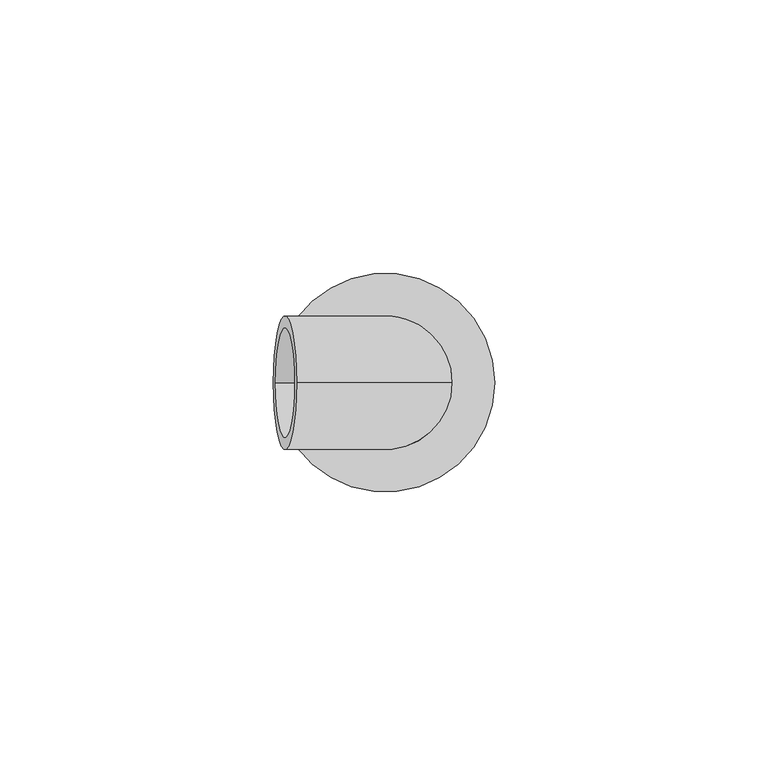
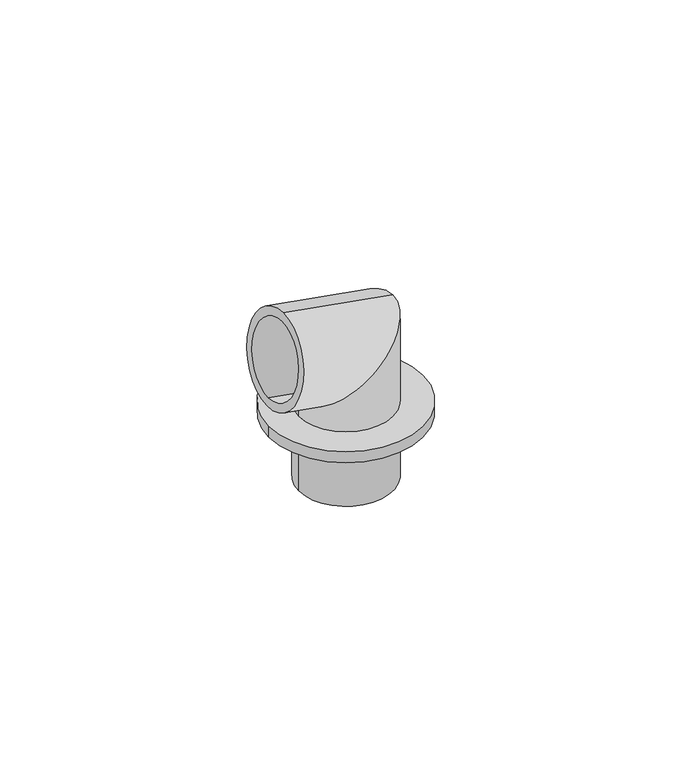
"""IFC4 building model written with IfcOpenShell, lengths in millimetres: pipe fitting geometry."""

from ifc_helpers import new_model, si_unit, point, frame, origin, origin_with_axes, origin_2d, place, context, project, spatial, polyline, circle_curve, ellipse_curve, trimmed, segment, composite_curve, outline, extrude, source, transform, mapped, element, save
from ifc_brep_helpers import plane_surface, cylinder_surface, revolved_surface, advanced_brep


def pipe_fitting_690a4b69(model_context):
    return source(origin(), model_context, "Body", "SolidModel", [
        extrude(outline(composite_curve([segment(trimmed(circle_curve(origin_2d(), 12.2), [point((-12.2, 0.0))], [point((12.2, 0.0))], False, "CARTESIAN"), True, "CONTINUOUS"), segment(trimmed(circle_curve(origin_2d(), 12.2), [point((12.2, 0.0))], [point((-12.2, 0.0))], False, "CARTESIAN"), True, "CONTINUOUS")], self_intersect=False), holes=[composite_curve([segment(trimmed(circle_curve(origin_2d(), 7.5), [point((-7.5, 0.0))], [point((7.5, 0.0))], True, "CARTESIAN"), True, "CONTINUOUS"), segment(trimmed(circle_curve(origin_2d(), 7.5), [point((7.5, 0.0))], [point((-7.5, 0.0))], True, "CARTESIAN"), True, "CONTINUOUS")], self_intersect=False)]), frame((0.0, 0.0, -17.5), z_axis=(0.0, 0.0, 1.0), x_axis=(1.0, 0.0, 0.0)), (0.0, 0.0, 1.0), 17.5),
        advanced_brep(
        [(-20.0, 0.0, 3.0), (20.0, 0.0, 3.0), (12.2, 0.0, 3.0), (-12.2, 0.0, 3.0), (10.0, 0.0, 3.0), (-10.0, 0.0, 3.0), (-7.5, 0.0, 3.0), (7.5, 0.0, 3.0), (-20.0, 0.0, 0.0), (20.0, 0.0, 0.0), (-7.5, 0.0, 0.0), (7.5, 0.0, 0.0), (12.2, 0.0, 27.7370155), (-12.2, 0.0, 7.2629845), (-16.2333564, 0.0, 32.7505834), (-20.4703719, 0.0, 8.7212742), (-16.6153824, 0.0, 30.5840063), (-20.0883459, 0.0, 10.8878513), (10.0, 0.0, 25.8909963), (-10.0, 0.0, 9.1090037)],
        [
            (0, 1, circle_curve(frame((0.0, 0.0, 3.0), z_axis=(0.0, 0.0, 1.0), x_axis=(1.0, 0.0, 0.0)), 20.0)),
            (1, 0, circle_curve(frame((0.0, 0.0, 3.0), z_axis=(0.0, 0.0, 1.0), x_axis=(1.0, 0.0, 0.0)), 20.0)),
            (2, 3, circle_curve(frame((0.0, 0.0, 3.0), z_axis=(0.0, 0.0, -1.0), x_axis=(-1.0, 0.0, 0.0)), 12.2)),
            (3, 2, circle_curve(frame((0.0, 0.0, 3.0), z_axis=(0.0, 0.0, -1.0), x_axis=(-1.0, 0.0, 0.0)), 12.2)),
            (4, 5, circle_curve(frame((0.0, 0.0, 3.0), z_axis=(0.0, 0.0, 1.0), x_axis=(-1.0, 0.0, 0.0)), 10.0)),
            (5, 4, circle_curve(frame((0.0, 0.0, 3.0), z_axis=(0.0, 0.0, 1.0), x_axis=(-1.0, 0.0, 0.0)), 10.0)),
            (6, 7, circle_curve(frame((0.0, 0.0, 3.0), z_axis=(0.0, 0.0, -1.0), x_axis=(1.0, 0.0, 0.0)), 7.5)),
            (7, 6, circle_curve(frame((0.0, 0.0, 3.0), z_axis=(0.0, 0.0, -1.0), x_axis=(1.0, 0.0, 0.0)), 7.5)),
            (8, 9, circle_curve(frame((0.0, 0.0, 0.0), z_axis=(0.0, 0.0, -1.0), x_axis=(1.0, 0.0, 0.0)), 20.0)),
            (9, 8, circle_curve(frame((0.0, 0.0, 0.0), z_axis=(0.0, 0.0, -1.0), x_axis=(1.0, 0.0, 0.0)), 20.0)),
            (10, 11, circle_curve(origin_with_axes(), 7.5)),
            (11, 10, circle_curve(origin_with_axes(), 7.5)),
            (0, 8),
            (9, 1),
            (12, 13, ellipse_curve(frame((0.0, 0.0, 17.5), z_axis=(0.6427876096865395, 0.0, -0.766044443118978), x_axis=(-0.7660444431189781, 0.0, -0.6427876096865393)), 15.9259689, 12.2)),
            (13, 3),
            (2, 12),
            (13, 12, ellipse_curve(frame((0.0, 0.0, 17.5), z_axis=(0.6427876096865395, 0.0, -0.766044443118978), x_axis=(-0.7660444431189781, 0.0, -0.6427876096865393)), 15.9259689, 12.2)),
            (14, 15, circle_curve(frame((-18.3518642, 0.0, 20.7359288), z_axis=(-0.9848077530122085, 0.0, 0.1736481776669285), x_axis=(-0.1736481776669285, 0.0, -0.9848077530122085)), 12.2)),
            (15, 14, circle_curve(frame((-18.3518642, 0.0, 20.7359288), z_axis=(-0.9848077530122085, 0.0, 0.1736481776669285), x_axis=(-0.1736481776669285, 0.0, -0.9848077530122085)), 12.2)),
            (16, 17, circle_curve(frame((-18.3518642, 0.0, 20.7359288), z_axis=(0.9848077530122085, 0.0, -0.1736481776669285), x_axis=(-0.1736481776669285, 0.0, -0.9848077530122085)), 10.0)),
            (17, 16, circle_curve(frame((-18.3518642, 0.0, 20.7359288), z_axis=(0.9848077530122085, 0.0, -0.1736481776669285), x_axis=(-0.1736481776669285, 0.0, -0.9848077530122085)), 10.0)),
            (12, 14),
            (15, 13),
            (6, 10),
            (11, 7),
            (18, 19, ellipse_curve(frame((0.0, 0.0, 17.5), z_axis=(-0.6427876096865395, 0.0, 0.766044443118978), x_axis=(0.7660444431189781, 0.0, 0.6427876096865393)), 13.0540729, 10.0)),
            (19, 5),
            (4, 18),
            (19, 18, ellipse_curve(frame((0.0, 0.0, 17.5), z_axis=(-0.6427876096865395, 0.0, 0.766044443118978), x_axis=(0.7660444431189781, 0.0, 0.6427876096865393)), 13.0540729, 10.0)),
            (17, 19),
            (18, 16),
        ],
        [
            plane_surface(frame((20.0, 0.0, 3.0), z_axis=(0.0, 0.0, 1.0), x_axis=(0.0, 1.0, 0.0))),
            plane_surface(frame((20.0, 0.0, 0.0), z_axis=(0.0, 0.0, -1.0), x_axis=(0.0, -1.0, 0.0))),
            cylinder_surface(origin_with_axes(), 20.0),
            cylinder_surface(frame((0.0, 0.0, 0.0), z_axis=(0.0, 0.0, -1.0), x_axis=(-1.0, 0.0, 0.0)), 12.2),
            plane_surface(frame((-18.3518642, 0.0, 20.7359288), z_axis=(-0.9848077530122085, 0.0, 0.1736481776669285), x_axis=(0.0, -1.0, 0.0))),
            cylinder_surface(frame((0.0, 0.0, 17.5), z_axis=(0.9848077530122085, 0.0, -0.1736481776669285), x_axis=(-0.1736481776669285, 0.0, -0.9848077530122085)), 12.2),
            revolved_surface(polyline([(7.5, 0.0, 0.0), (7.5, 0.0, 3.0)]), (0.0, 0.0, 0.0), (0.0, 0.0, -1.0)),
            revolved_surface(polyline([(-10.0, 0.0, 25.89099631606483), (-10.0, 0.0, 3.0)]), (0.0, 0.0, 0.0), (0.0, 0.0, 1.0)),
            revolved_surface(polyline([(-20.088345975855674, 0.0, 10.887851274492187), (6.527036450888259, 0.0, 6.194841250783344)]), (0.0, 0.0, 17.5), (-0.9848077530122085, 0.0, 0.1736481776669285)),
        ],
        [
            (0, [[1, 2], [3, 4]]),
            (0, [[5, 6], [7, 8]]),
            (1, [[9, 10], [11, 12]]),
            (2, [[-1, 13, -10, 14]]),
            (2, [[-2, -14, -9, -13]]),
            (3, [[15, 16, -3, 17]]),
            (3, [[18, -17, -4, -16]]),
            (4, [[19, 20], [21, 22]]),
            (5, [[-15, 23, -20, 24]]),
            (5, [[-18, -24, -19, -23]]),
            (6, [[-7, 25, -12, 26]]),
            (6, [[-8, -26, -11, -25]]),
            (7, [[27, 28, -5, 29]]),
            (7, [[30, -29, -6, -28]]),
            (8, [[-22, 31, -27, 32]]),
            (8, [[-21, -32, -30, -31]]),
        ],
    ),
    ])


if __name__ == "__main__":
    model = new_model("IFC4")
    model_context = context("Model", 3, world=origin())
    ifc_project = project(units=[si_unit("LENGTHUNIT", "METRE", prefix="MILLI")], contexts=[model_context])
    site = spatial("IfcSite", under=ifc_project)
    building = spatial("IfcBuilding", under=site)
    placement = place(None, origin())
    pipe_fitting_shape = pipe_fitting_690a4b69(model_context)
    element("IfcPipeFitting", 1, ObjectType="БИР ПЕКС_КМП_Угольник установочный 100 : Угольник установочный 100° 1/2\" х 20 (2,8)", at=placement, inside=building, context=model_context, shape_type="MappedRepresentation", body=[
        mapped(pipe_fitting_shape, transform((0.0, 0.0, 0.0), x_axis=(1.0, 0.0, 0.0), y_axis=(0.0, 1.0, 0.0), z_axis=(0.0, 0.0, 1.0))),
    ])
    save(model, "model.ifc")
